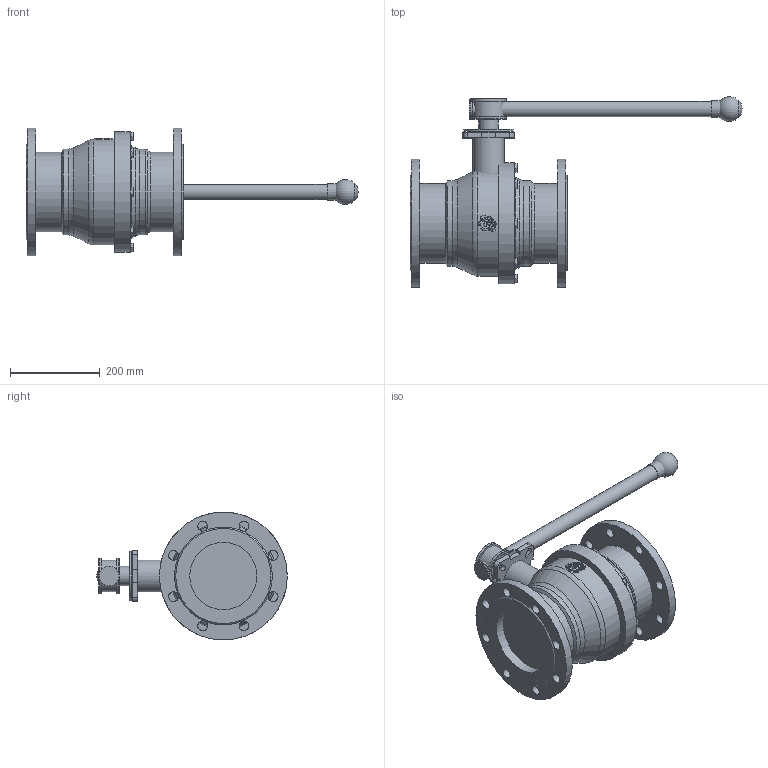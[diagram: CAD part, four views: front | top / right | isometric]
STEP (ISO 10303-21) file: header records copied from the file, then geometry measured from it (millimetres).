
FILE_DESCRIPTION(('STEP AP203'), '1');
FILE_NAME('3D_7528-150-16(ñ ëîãî ÷åðíîâèê)', '', ('UNSPECIFIED'), ('UNSPECIFIED'), 'C3D Converter', 'C3D Toolkit', '');
FILE_SCHEMA(('CONFIG_CONTROL_DESIGN'));
Length unit declared in the file: millimetre
Assembly tree (9 placements, depth 3):
  (unnamed)
    (unnamed)
      (unnamed)  x7
      (unnamed)
Bounding box: 740.09 x 424.78 x 285 mm (x, y, z)
Volume: 13747766.8 mm3; surface area: 759001.7 mm2
Topology: 22 solids, 22 shells, 1073 faces, 3195 edges, 2167 vertices
Faces by surface type: plane 949, cylinder 63, cone 38, torus 23
Full cylindrical faces by diameter (mm): 12 x16, 22 x16, 33.635 x2, 42.955 x1, 47.007 x1, 70.106 x1, 70.917 x1, 79.832 x2, 110.224 x1, 150 x2, 177.687 x2, 190.779 x2, 236.165 x1, 269.333 x1, 285.001 x2
Entity records: 44055 total; most frequent: CARTESIAN_POINT 9487, ORIENTED_EDGE 5702, DIRECTION 4945, EDGE_CURVE 2851, LINE 2559, VECTOR 2559, VERTEX_POINT 1970, AXIS2_PLACEMENT_3D 1193
